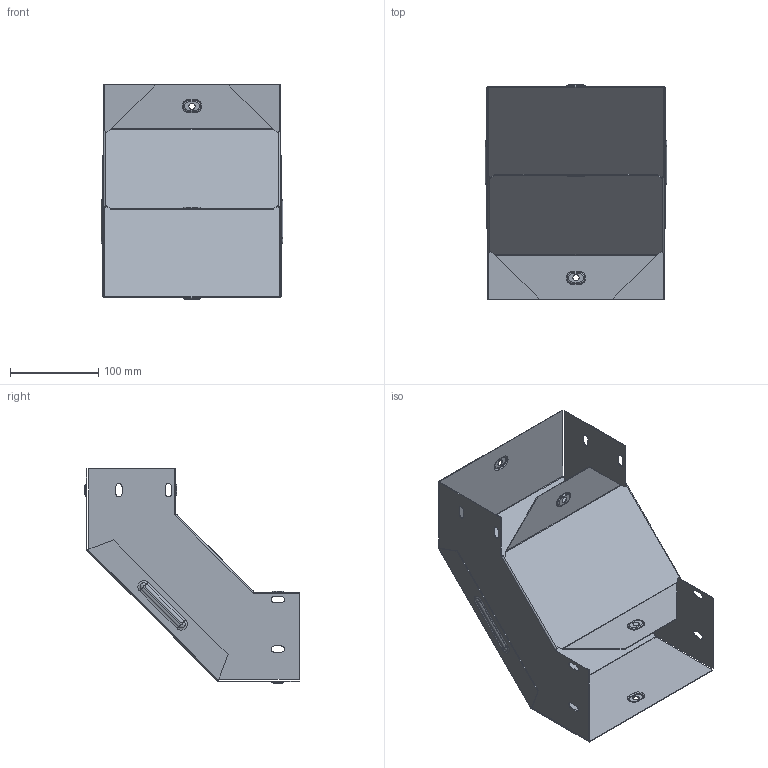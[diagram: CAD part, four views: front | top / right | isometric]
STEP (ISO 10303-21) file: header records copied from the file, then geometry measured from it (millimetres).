
FILE_DESCRIPTION (( 'STEP AP214' ), '1' );
FILE_NAME ('vo90100200_捘.STEP', '2019-06-10T09:07:09', ( '砐錪賧瘔蠈錪 Windows' ), ( '' ), 'SwSTEP 2.0', 'SolidWorks 2018', '' );
FILE_SCHEMA (( 'AUTOMOTIVE_DESIGN' ));
Length unit declared in the file: millimetre
Products named in the file (1): vo90100200_捘
Bounding box: 205.6 x 242.31 x 242.31 mm (x, y, z)
Volume: 150840.8 mm3; surface area: 379930.1 mm2
Topology: 2 solids, 2 shells, 280 faces, 660 edges, 400 vertices
Faces by surface type: cylinder 108, plane 100, torus 64, bspline 8
Entity records: 8251 total; most frequent: CARTESIAN_POINT 1589, DIRECTION 1470, ORIENTED_EDGE 1320, EDGE_CURVE 660, AXIS2_PLACEMENT_3D 569, VERTEX_POINT 400, VECTOR 332, LINE 332
